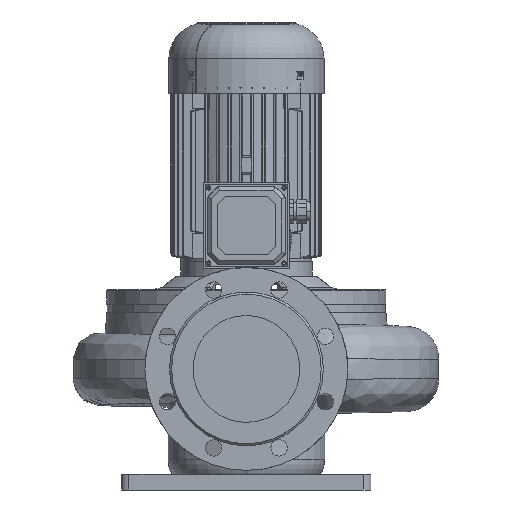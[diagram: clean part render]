
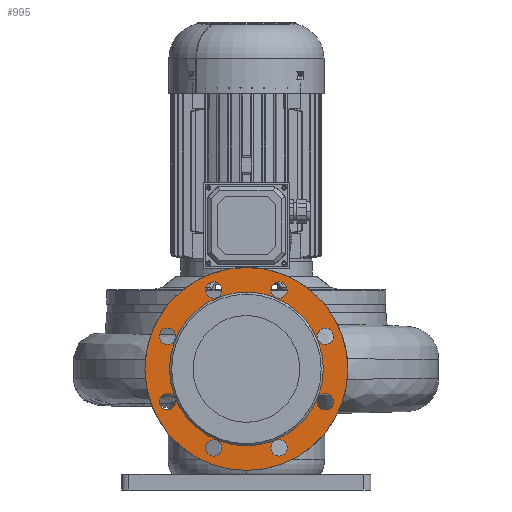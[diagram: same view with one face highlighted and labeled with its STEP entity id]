
A CAD part, front view. The second image highlights one B-rep face of the part: STEP entity #995.
In plain terms, the highlighted planar face has unit normal (0, -1, 0) as drawn and (0, 1, 0) by its records, which use the part's own axes.
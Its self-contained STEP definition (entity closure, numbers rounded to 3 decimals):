
#995=ADVANCED_FACE('',(#1971,#1972,#1973,#1974,#1975,#1976,#1977,#1978,#1979,#1980),#1981,.T.);
#1023=EDGE_CURVE('',#2024,#2025,#2026,.T.);
#1027=EDGE_CURVE('',#2032,#2033,#2034,.T.);
#1031=EDGE_CURVE('',#2040,#2041,#2042,.T.);
#1035=EDGE_CURVE('',#2048,#2049,#2050,.T.);
#1039=EDGE_CURVE('',#2056,#2057,#2058,.T.);
#1043=EDGE_CURVE('',#2064,#2065,#2066,.T.);
#1047=EDGE_CURVE('',#2072,#2073,#2074,.T.);
#1051=EDGE_CURVE('',#2080,#2081,#2082,.T.);
#1055=EDGE_CURVE('',#2088,#2089,#2090,.T.);
#1057=EDGE_CURVE('',#2092,#2093,#2094,.T.);
#1203=EDGE_CURVE('',#2093,#2092,#2312,.T.);
#1221=EDGE_CURVE('',#2089,#2088,#2330,.T.);
#1223=EDGE_CURVE('',#2081,#2080,#2332,.T.);
#1225=EDGE_CURVE('',#2073,#2072,#2334,.T.);
#1227=EDGE_CURVE('',#2065,#2064,#2336,.T.);
#1229=EDGE_CURVE('',#2057,#2056,#2338,.T.);
#1231=EDGE_CURVE('',#2049,#2048,#2340,.T.);
#1233=EDGE_CURVE('',#2041,#2040,#2342,.T.);
#1235=EDGE_CURVE('',#2033,#2032,#2344,.T.);
#1237=EDGE_CURVE('',#2025,#2024,#2346,.T.);
#1971=FACE_OUTER_BOUND('',#5017,.T.);
#1972=FACE_BOUND('',#5018,.T.);
#1973=FACE_BOUND('',#5019,.T.);
#1974=FACE_BOUND('',#5020,.T.);
#1975=FACE_BOUND('',#5021,.T.);
#1976=FACE_BOUND('',#5022,.T.);
#1977=FACE_BOUND('',#5023,.T.);
#1978=FACE_BOUND('',#5024,.T.);
#1979=FACE_BOUND('',#5025,.T.);
#1980=FACE_BOUND('',#5026,.T.);
#1981=PLANE('',#5027);
#2024=VERTEX_POINT('',#6091);
#2025=VERTEX_POINT('',#6092);
#2026=CIRCLE('',#6093,108.0);
#2032=VERTEX_POINT('',#6101);
#2033=VERTEX_POINT('',#6102);
#2034=CIRCLE('',#6103,11.5);
#2040=VERTEX_POINT('',#6111);
#2041=VERTEX_POINT('',#6112);
#2042=CIRCLE('',#6113,11.5);
#2048=VERTEX_POINT('',#6121);
#2049=VERTEX_POINT('',#6122);
#2050=CIRCLE('',#6123,11.5);
#2056=VERTEX_POINT('',#6131);
#2057=VERTEX_POINT('',#6132);
#2058=CIRCLE('',#6133,11.5);
#2064=VERTEX_POINT('',#6141);
#2065=VERTEX_POINT('',#6142);
#2066=CIRCLE('',#6143,11.5);
#2072=VERTEX_POINT('',#6151);
#2073=VERTEX_POINT('',#6152);
#2074=CIRCLE('',#6153,11.5);
#2080=VERTEX_POINT('',#6161);
#2081=VERTEX_POINT('',#6162);
#2082=CIRCLE('',#6163,11.5);
#2088=VERTEX_POINT('',#6171);
#2089=VERTEX_POINT('',#6172);
#2090=CIRCLE('',#6173,11.5);
#2092=VERTEX_POINT('',#6176);
#2093=VERTEX_POINT('',#6177);
#2094=CIRCLE('',#6178,142.5);
#2312=CIRCLE('',#6555,142.5);
#2330=CIRCLE('',#6582,11.5);
#2332=CIRCLE('',#6585,11.5);
#2334=CIRCLE('',#6588,11.5);
#2336=CIRCLE('',#6591,11.5);
#2338=CIRCLE('',#6594,11.5);
#2340=CIRCLE('',#6597,11.5);
#2342=CIRCLE('',#6600,11.5);
#2344=CIRCLE('',#6603,11.5);
#2346=CIRCLE('',#6606,108.0);
#5017=EDGE_LOOP('',(#11076,#11077));
#5018=EDGE_LOOP('',(#11078,#11079));
#5019=EDGE_LOOP('',(#11080,#11081));
#5020=EDGE_LOOP('',(#11082,#11083));
#5021=EDGE_LOOP('',(#11084,#11085));
#5022=EDGE_LOOP('',(#11086,#11087));
#5023=EDGE_LOOP('',(#11088,#11089));
#5024=EDGE_LOOP('',(#11090,#11091));
#5025=EDGE_LOOP('',(#11092,#11093));
#5026=EDGE_LOOP('',(#11094,#11095));
#5027=AXIS2_PLACEMENT_3D('',#11096,#11097,#11098);
#6091=CARTESIAN_POINT('',(0.,377.,-108.0));
#6092=CARTESIAN_POINT('',(0.,377.0,108.0));
#6093=AXIS2_PLACEMENT_3D('',#11200,#11201,#11202);
#6101=CARTESIAN_POINT('',(-117.353,377.0,-36.426));
#6102=CARTESIAN_POINT('',(-104.378,377.0,-55.418));
#6103=AXIS2_PLACEMENT_3D('',#11206,#11207,#11208);
#6111=CARTESIAN_POINT('',(-108.738,377.,57.224));
#6112=CARTESIAN_POINT('',(-112.993,377.,34.62));
#6113=AXIS2_PLACEMENT_3D('',#11212,#11213,#11214);
#6121=CARTESIAN_POINT('',(-36.426,377.,117.353));
#6122=CARTESIAN_POINT('',(-55.418,377.,104.378));
#6123=AXIS2_PLACEMENT_3D('',#11218,#11219,#11220);
#6131=CARTESIAN_POINT('',(57.224,377.,108.738));
#6132=CARTESIAN_POINT('',(34.62,377.,112.993));
#6133=AXIS2_PLACEMENT_3D('',#11224,#11225,#11226);
#6141=CARTESIAN_POINT('',(117.353,377.,36.426));
#6142=CARTESIAN_POINT('',(104.378,377.,55.418));
#6143=AXIS2_PLACEMENT_3D('',#11230,#11231,#11232);
#6151=CARTESIAN_POINT('',(108.738,377.,-57.224));
#6152=CARTESIAN_POINT('',(112.993,377.,-34.62));
#6153=AXIS2_PLACEMENT_3D('',#11236,#11237,#11238);
#6161=CARTESIAN_POINT('',(36.426,377.,-117.353));
#6162=CARTESIAN_POINT('',(55.418,377.0,-104.378));
#6163=AXIS2_PLACEMENT_3D('',#11242,#11243,#11244);
#6171=CARTESIAN_POINT('',(-57.224,377.,-108.738));
#6172=CARTESIAN_POINT('',(-34.62,377.,-112.993));
#6173=AXIS2_PLACEMENT_3D('',#11248,#11249,#11250);
#6176=CARTESIAN_POINT('',(0.,377.0,-142.5));
#6177=CARTESIAN_POINT('',(0.,377.,142.5));
#6178=AXIS2_PLACEMENT_3D('',#11251,#11252,#11253);
#6555=AXIS2_PLACEMENT_3D('',#11442,#11443,#11444);
#6582=AXIS2_PLACEMENT_3D('',#11469,#11470,#11471);
#6585=AXIS2_PLACEMENT_3D('',#11472,#11473,#11474);
#6588=AXIS2_PLACEMENT_3D('',#11475,#11476,#11477);
#6591=AXIS2_PLACEMENT_3D('',#11478,#11479,#11480);
#6594=AXIS2_PLACEMENT_3D('',#11481,#11482,#11483);
#6597=AXIS2_PLACEMENT_3D('',#11484,#11485,#11486);
#6600=AXIS2_PLACEMENT_3D('',#11487,#11488,#11489);
#6603=AXIS2_PLACEMENT_3D('',#11490,#11491,#11492);
#6606=AXIS2_PLACEMENT_3D('',#11493,#11494,#11495);
#11076=ORIENTED_EDGE('',*,*,#1203,.F.);
#11077=ORIENTED_EDGE('',*,*,#1057,.F.);
#11078=ORIENTED_EDGE('',*,*,#1023,.T.);
#11079=ORIENTED_EDGE('',*,*,#1237,.T.);
#11080=ORIENTED_EDGE('',*,*,#1027,.T.);
#11081=ORIENTED_EDGE('',*,*,#1235,.T.);
#11082=ORIENTED_EDGE('',*,*,#1031,.T.);
#11083=ORIENTED_EDGE('',*,*,#1233,.T.);
#11084=ORIENTED_EDGE('',*,*,#1035,.T.);
#11085=ORIENTED_EDGE('',*,*,#1231,.T.);
#11086=ORIENTED_EDGE('',*,*,#1039,.T.);
#11087=ORIENTED_EDGE('',*,*,#1229,.T.);
#11088=ORIENTED_EDGE('',*,*,#1043,.T.);
#11089=ORIENTED_EDGE('',*,*,#1227,.T.);
#11090=ORIENTED_EDGE('',*,*,#1047,.T.);
#11091=ORIENTED_EDGE('',*,*,#1225,.T.);
#11092=ORIENTED_EDGE('',*,*,#1051,.T.);
#11093=ORIENTED_EDGE('',*,*,#1223,.T.);
#11094=ORIENTED_EDGE('',*,*,#1055,.T.);
#11095=ORIENTED_EDGE('',*,*,#1221,.T.);
#11096=CARTESIAN_POINT('',(0.,377.,-125.25));
#11097=DIRECTION('',(0.0,1.0,0.0));
#11098=DIRECTION('',(0.0,0.0,1.0));
#11200=CARTESIAN_POINT('',(0.,377.0,0.));
#11201=DIRECTION('',(0.0,-1.0,0.0));
#11202=DIRECTION('',(0.,0.0,-1.0));
#11206=CARTESIAN_POINT('',(-110.866,377.0,-45.922));
#11207=DIRECTION('',(0.0,-1.0,0.0));
#11208=DIRECTION('',(-0.564,0.0,0.826));
#11212=CARTESIAN_POINT('',(-110.866,377.,45.922));
#11213=DIRECTION('',(0.0,-1.0,0.0));
#11214=DIRECTION('',(0.185,0.0,0.983));
#11218=CARTESIAN_POINT('',(-45.922,377.,110.866));
#11219=DIRECTION('',(0.0,-1.0,0.0));
#11220=DIRECTION('',(0.826,0.0,0.564));
#11224=CARTESIAN_POINT('',(45.922,377.,110.866));
#11225=DIRECTION('',(0.0,-1.0,0.0));
#11226=DIRECTION('',(0.983,0.0,-0.185));
#11230=CARTESIAN_POINT('',(110.866,377.,45.922));
#11231=DIRECTION('',(0.0,-1.0,0.0));
#11232=DIRECTION('',(0.564,0.0,-0.826));
#11236=CARTESIAN_POINT('',(110.866,377.,-45.922));
#11237=DIRECTION('',(0.0,-1.0,-0.0));
#11238=DIRECTION('',(-0.185,0.0,-0.983));
#11242=CARTESIAN_POINT('',(45.922,377.0,-110.866));
#11243=DIRECTION('',(0.0,-1.0,-0.0));
#11244=DIRECTION('',(-0.826,0.0,-0.564));
#11248=CARTESIAN_POINT('',(-45.922,377.,-110.866));
#11249=DIRECTION('',(0.0,-1.0,0.0));
#11250=DIRECTION('',(-0.983,0.0,0.185));
#11251=CARTESIAN_POINT('',(0.,377.0,0.));
#11252=DIRECTION('',(0.0,-1.0,0.0));
#11253=DIRECTION('',(0.,0.0,-1.0));
#11442=CARTESIAN_POINT('',(0.,377.0,0.));
#11443=DIRECTION('',(0.0,-1.0,0.0));
#11444=DIRECTION('',(0.,0.0,-1.0));
#11469=CARTESIAN_POINT('',(-45.922,377.,-110.866));
#11470=DIRECTION('',(0.0,-1.0,0.0));
#11471=DIRECTION('',(-0.983,0.0,0.185));
#11472=CARTESIAN_POINT('',(45.922,377.0,-110.866));
#11473=DIRECTION('',(0.0,-1.0,-0.0));
#11474=DIRECTION('',(-0.826,0.0,-0.564));
#11475=CARTESIAN_POINT('',(110.866,377.,-45.922));
#11476=DIRECTION('',(0.0,-1.0,-0.0));
#11477=DIRECTION('',(-0.185,0.0,-0.983));
#11478=CARTESIAN_POINT('',(110.866,377.,45.922));
#11479=DIRECTION('',(0.0,-1.0,0.0));
#11480=DIRECTION('',(0.564,0.0,-0.826));
#11481=CARTESIAN_POINT('',(45.922,377.,110.866));
#11482=DIRECTION('',(0.0,-1.0,0.0));
#11483=DIRECTION('',(0.983,0.0,-0.185));
#11484=CARTESIAN_POINT('',(-45.922,377.,110.866));
#11485=DIRECTION('',(0.0,-1.0,0.0));
#11486=DIRECTION('',(0.826,0.0,0.564));
#11487=CARTESIAN_POINT('',(-110.866,377.,45.922));
#11488=DIRECTION('',(0.0,-1.0,0.0));
#11489=DIRECTION('',(0.185,0.0,0.983));
#11490=CARTESIAN_POINT('',(-110.866,377.0,-45.922));
#11491=DIRECTION('',(0.0,-1.0,0.0));
#11492=DIRECTION('',(-0.564,0.0,0.826));
#11493=CARTESIAN_POINT('',(0.,377.0,0.));
#11494=DIRECTION('',(0.0,-1.0,0.0));
#11495=DIRECTION('',(0.,0.0,-1.0));
